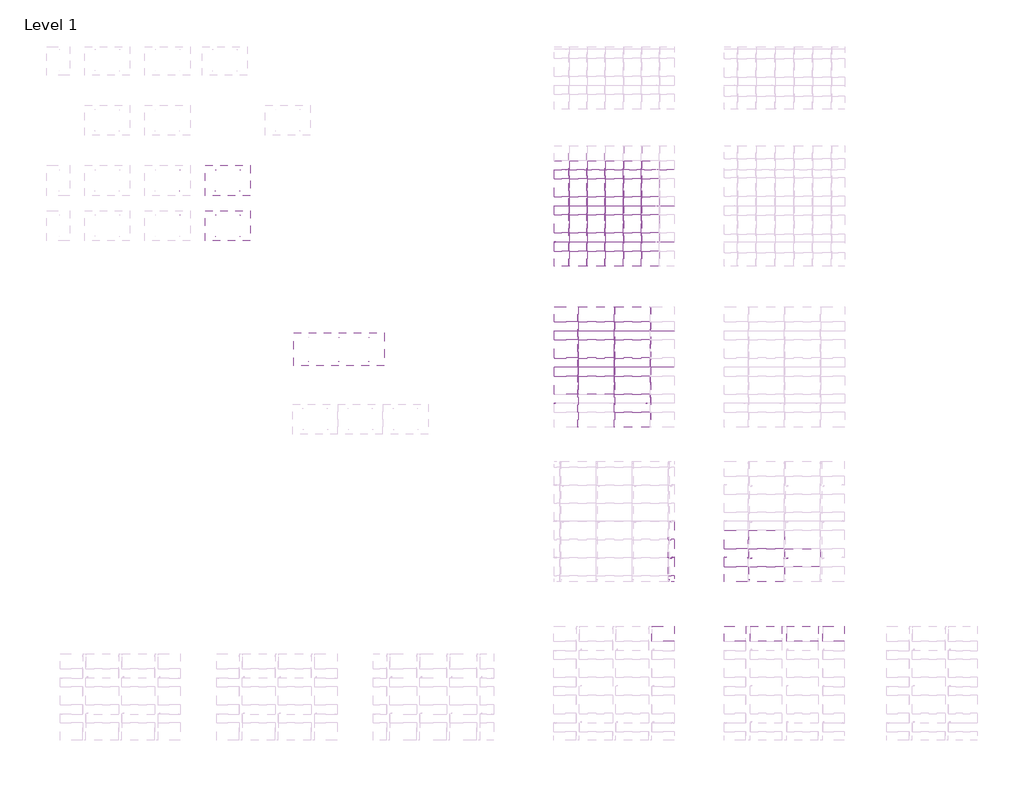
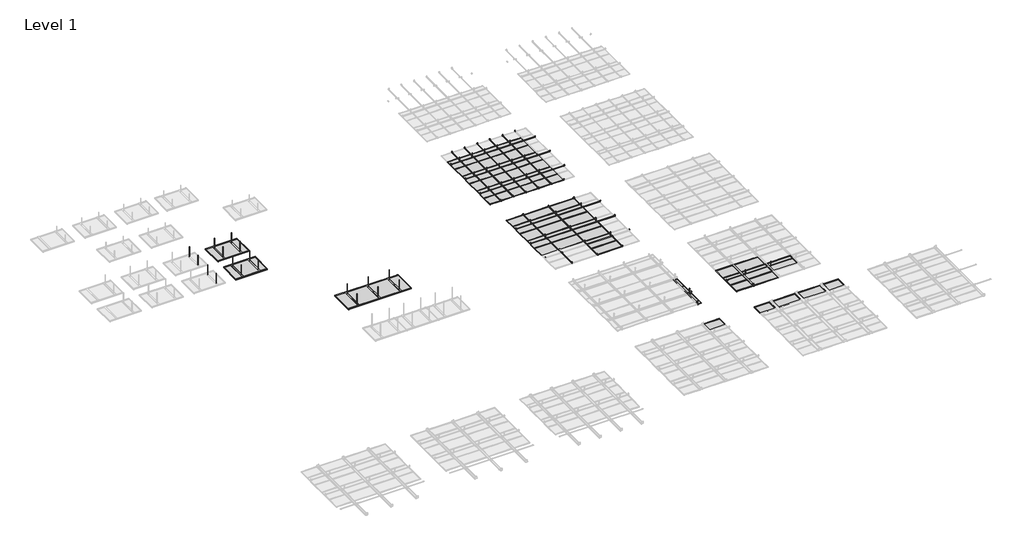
# One storey, part 19 of 32: 136 proxies.
"""IFC4 building model written with IfcOpenShell, lengths in millimetres."""

from ifc_helpers import new_model, si_unit, origin, place, context, project, spatial, transform, mapped, element, save
from components import generic_models_6a3b3989, generic_models_23599627, generic_models_52426d55, generic_models_b4e013a1, generic_models_a68d030a, generic_models_2e6f3e4f, generic_models_30bc5e68, generic_models_0902a4dc, generic_models_f1efeb4e, generic_models_8a91d987, generic_models_d8e51ee8, generic_models_84546a59, generic_models_413290ff, generic_models_9e18e937, generic_models_28f6a95c, generic_models_9ccf16c1, generic_models_38625c8c, generic_models_52b0cff2, generic_models_a15f8cf3, generic_models_f7f565fa, generic_models_7573e460, generic_models_cc1ed79e, generic_models_ab47d6b6, generic_models_cebb11cf, generic_models_ee13603d, generic_models_0cb75665, generic_models_6d21b951, generic_models_ec4af956, generic_models_f9f24abc, generic_models_de900850

model = new_model("IFC4")

# Units and contexts
model_context = context("Model", 3, world=origin())
ifc_project = project(units=[si_unit("LENGTHUNIT", "METRE", prefix="MILLI")], contexts=[model_context])

# Site, building, storey
site = spatial("IfcSite", under=ifc_project)
building = spatial("IfcBuilding", under=site)
storey = spatial("IfcBuildingStorey", under=building, Name="Level 1", Elevation=0.0)

# Proxies
placement = place(None, origin())
generic_models_shape = generic_models_6a3b3989(model_context)
element("IfcBuildingElementProxy", 1, Name="durlum_S4_panel : durlum_S4_panel_wall_length_cut", ObjectType="durlum_S4_panel : durlum_S4_panel_wall_length_cut", at=placement, inside=storey, context=model_context, shape_type="MappedRepresentation", body=[
    mapped(generic_models_shape, transform((-15490.1736977, 3132.0111467, 3700.0), x_axis=(1.0, 0.0, 0.0), y_axis=(0.0, 1.0, 0.0), z_axis=(0.0, 0.0, 1.0))),
])
element("IfcBuildingElementProxy", 2, Name="durlum_S4_panel : durlum_S4_panel_wall_length_cut", ObjectType="durlum_S4_panel : durlum_S4_panel_wall_length_cut", at=placement, inside=storey, context=model_context, shape_type="MappedRepresentation", body=[
    mapped(generic_models_shape, transform((-15490.1736977, 3732.0111467, 3700.0), x_axis=(1.0, 0.0, 0.0), y_axis=(0.0, 1.0, 0.0), z_axis=(0.0, 0.0, 1.0))),
])
element("IfcBuildingElementProxy", 3, Name="durlum_S4_panel : durlum_S4_panel_wall_length_cut", ObjectType="durlum_S4_panel : durlum_S4_panel_wall_length_cut", at=placement, inside=storey, context=model_context, shape_type="MappedRepresentation", body=[
    mapped(generic_models_shape, transform((-15490.1736977, 2532.0111467, 3700.0), x_axis=(1.0, 0.0, 0.0), y_axis=(0.0, 1.0, 0.0), z_axis=(0.0, 0.0, 1.0))),
])
generic_models_2_shape = generic_models_23599627(model_context)
element("IfcBuildingElementProxy", 4, Name="durlum_S4_panel : durlum_S4_panel_wall_corner", ObjectType="durlum_S4_panel : durlum_S4_panel_wall_corner", at=placement, inside=storey, context=model_context, shape_type="MappedRepresentation", body=[
    mapped(generic_models_2_shape, transform((-15490.1736977, 2132.0111467, 3700.0), x_axis=(1.0, 0.0, 0.0), y_axis=(0.0, 1.0, 0.0), z_axis=(0.0, 0.0, 1.0))),
])
generic_models_3_shape = generic_models_52426d55(model_context)
element("IfcBuildingElementProxy", 5, Name="durlum_dur_SOLO_RHOMBOS_TYPE1 : durlum_dur_SOLO_RHOMBOS_TYPE1", ObjectType="durlum_dur_SOLO_RHOMBOS_TYPE1 : durlum_dur_SOLO_RHOMBOS_TYPE1", at=placement, inside=storey, context=model_context, shape_type="MappedRepresentation", body=[
    mapped(generic_models_3_shape, transform((-26532.3984834, 9750.3347409, 3456.9628151), x_axis=(1.0, 0.0, 0.0), y_axis=(0.0, 1.0, 0.0), z_axis=(0.0, 0.0, 1.0))),
])
generic_models_4_shape = generic_models_b4e013a1(model_context)
element("IfcBuildingElementProxy", 6, Name="durlum_S4.7K_panel : durlum_S4.7_panel", ObjectType="durlum_S4.7K_panel : durlum_S4.7_panel", at=placement, inside=storey, context=model_context, shape_type="MappedRepresentation", body=[
    mapped(generic_models_4_shape, transform((-12336.0747393, 2832.0111467, 3700.0), x_axis=(1.0, 0.0, 0.0), y_axis=(0.0, 1.0, 0.0), z_axis=(0.0, 0.0, 1.0))),
])
element("IfcBuildingElementProxy", 7, Name="durlum_S4.7K_panel : durlum_S4.7_panel", ObjectType="durlum_S4.7K_panel : durlum_S4.7_panel", at=placement, inside=storey, context=model_context, shape_type="MappedRepresentation", body=[
    mapped(generic_models_4_shape, transform((-11136.0747393, 2832.0111467, 3700.0), x_axis=(1.0, 0.0, 0.0), y_axis=(0.0, 1.0, 0.0), z_axis=(0.0, 0.0, 1.0))),
])
element("IfcBuildingElementProxy", 8, Name="durlum_S4.7K_panel : durlum_S4.7_panel", ObjectType="durlum_S4.7K_panel : durlum_S4.7_panel", at=placement, inside=storey, context=model_context, shape_type="MappedRepresentation", body=[
    mapped(generic_models_4_shape, transform((-12336.0747393, 3432.0111467, 3700.0), x_axis=(1.0, 0.0, 0.0), y_axis=(0.0, 1.0, 0.0), z_axis=(0.0, 0.0, 1.0))),
])
generic_models_5_shape = generic_models_a68d030a(model_context)
element("IfcBuildingElementProxy", 9, Name="durlum_S4.7K_panel : durlum_S4.7_panel_wall_length_cut", ObjectType="durlum_S4.7K_panel : durlum_S4.7_panel_wall_length_cut", at=placement, inside=storey, context=model_context, shape_type="MappedRepresentation", body=[
    mapped(generic_models_5_shape, transform((-13336.0747393, 3432.0111467, 3700.0), x_axis=(1.0, 0.0, 0.0), y_axis=(0.0, 1.0, 0.0), z_axis=(0.0, 0.0, 1.0))),
])
element("IfcBuildingElementProxy", 10, Name="durlum_S4.7K_panel : durlum_S4.7_panel_wall_length_cut", ObjectType="durlum_S4.7K_panel : durlum_S4.7_panel_wall_length_cut", at=placement, inside=storey, context=model_context, shape_type="MappedRepresentation", body=[
    mapped(generic_models_5_shape, transform((-13336.0747393, 2832.0111467, 3700.0), x_axis=(1.0, 0.0, 0.0), y_axis=(0.0, 1.0, 0.0), z_axis=(0.0, 0.0, 1.0))),
])
generic_models_6_shape = generic_models_2e6f3e4f(model_context)
element("IfcBuildingElementProxy", 11, Name="durlum_S4.7K_panel : durlum_S4.7_panel_wall_width_cut", ObjectType="durlum_S4.7K_panel : durlum_S4.7_panel_wall_width_cut", at=placement, inside=storey, context=model_context, shape_type="MappedRepresentation", body=[
    mapped(generic_models_6_shape, transform((-12336.0747393, 2282.0111467, 3700.0), x_axis=(1.0, 0.0, 0.0), y_axis=(0.0, 1.0, 0.0), z_axis=(0.0, 0.0, 1.0))),
])
generic_models_7_shape = generic_models_30bc5e68(model_context)
element("IfcBuildingElementProxy", 12, Name="durlum_S4.7K_panel : durlum_S4.7_panel_wall_corner", ObjectType="durlum_S4.7K_panel : durlum_S4.7_panel_wall_corner", at=placement, inside=storey, context=model_context, shape_type="MappedRepresentation", body=[
    mapped(generic_models_7_shape, transform((-13336.0747393, 2282.0111467, 3700.0), x_axis=(1.0, 0.0, 0.0), y_axis=(0.0, 1.0, 0.0), z_axis=(0.0, 0.0, 1.0))),
])
generic_models_8_shape = generic_models_0902a4dc(model_context)
element("IfcBuildingElementProxy", 13, Name="durlum_S5-100_panel : durlum_S5-100_panel_wall_corner", ObjectType="durlum_S5-100_panel : durlum_S5-100_panel_wall_corner", at=placement, inside=storey, context=model_context, shape_type="MappedRepresentation", body=[
    mapped(generic_models_8_shape, transform((-15764.9236977, 301.7696119, 3800.0), x_axis=(1.0, 0.0, 0.0), y_axis=(0.0, 1.0, 0.0), z_axis=(0.0, 0.0, 1.0))),
])
generic_models_9_shape = generic_models_f1efeb4e(model_context)
element("IfcBuildingElementProxy", 14, Name="durlum_U1300 : durlum_U1300", ObjectType="durlum_U1300 : durlum_U1300", at=placement, inside=storey, context=model_context, shape_type="MappedRepresentation", body=[
    mapped(generic_models_9_shape, transform((-16284.1736977, 9162.5129347, 3081.9124682), x_axis=(0.0, -1.0, 0.0), y_axis=(1.0, 0.0, 0.0), z_axis=(0.0, 0.0, 1.0))),
])
element("IfcBuildingElementProxy", 15, Name="durlum_U1300 : durlum_U1300", ObjectType="durlum_U1300 : durlum_U1300", at=placement, inside=storey, context=model_context, shape_type="MappedRepresentation", body=[
    mapped(generic_models_9_shape, transform((-18684.1736977, 9162.5129347, 3081.9124682), x_axis=(0.0, -1.0, 0.0), y_axis=(1.0, 0.0, 0.0), z_axis=(0.0, 0.0, 1.0))),
])
element("IfcBuildingElementProxy", 16, Name="durlum_U1300 : durlum_U1300", ObjectType="durlum_U1300 : durlum_U1300", at=placement, inside=storey, context=model_context, shape_type="MappedRepresentation", body=[
    mapped(generic_models_9_shape, transform((-17484.1736977, 9162.5129347, 3081.9124682), x_axis=(0.0, -1.0, 0.0), y_axis=(1.0, 0.0, 0.0), z_axis=(0.0, 0.0, 1.0))),
])
element("IfcBuildingElementProxy", 17, Name="durlum_U1300 : durlum_U1300", ObjectType="durlum_U1300 : durlum_U1300", at=placement, inside=storey, context=model_context, shape_type="MappedRepresentation", body=[
    mapped(generic_models_9_shape, transform((-16284.1736977, 7962.5129347, 3081.9124682), x_axis=(0.0, -1.0, 0.0), y_axis=(1.0, 0.0, 0.0), z_axis=(0.0, 0.0, 1.0))),
])
element("IfcBuildingElementProxy", 18, Name="durlum_U1300 : durlum_U1300", ObjectType="durlum_U1300 : durlum_U1300", at=placement, inside=storey, context=model_context, shape_type="MappedRepresentation", body=[
    mapped(generic_models_9_shape, transform((-16284.1736977, 10362.5129347, 3081.9124682), x_axis=(0.0, -1.0, 0.0), y_axis=(1.0, 0.0, 0.0), z_axis=(0.0, 0.0, 1.0))),
])
element("IfcBuildingElementProxy", 19, Name="durlum_U1300 : durlum_U1300", ObjectType="durlum_U1300 : durlum_U1300", at=placement, inside=storey, context=model_context, shape_type="MappedRepresentation", body=[
    mapped(generic_models_9_shape, transform((-18684.1736977, 10362.5129347, 3081.9124682), x_axis=(0.0, -1.0, 0.0), y_axis=(1.0, 0.0, 0.0), z_axis=(0.0, 0.0, 1.0))),
])
element("IfcBuildingElementProxy", 20, Name="durlum_U1300 : durlum_U1300", ObjectType="durlum_U1300 : durlum_U1300", at=placement, inside=storey, context=model_context, shape_type="MappedRepresentation", body=[
    mapped(generic_models_9_shape, transform((-17484.1736977, 10362.5129347, 3081.9124682), x_axis=(0.0, -1.0, 0.0), y_axis=(1.0, 0.0, 0.0), z_axis=(0.0, 0.0, 1.0))),
])
generic_models_10_shape = generic_models_8a91d987(model_context)
element("IfcBuildingElementProxy", 21, Name="durlum_U1300 : durlum_U1300", ObjectType="durlum_U1300 : durlum_U1300", at=placement, inside=storey, context=model_context, shape_type="MappedRepresentation", body=[
    mapped(generic_models_10_shape, transform((-15490.1736977, 2832.0111467, 3050.4124682), x_axis=(1.0, 0.0, 0.0), y_axis=(0.0, 1.0, 0.0), z_axis=(0.0, 0.0, 1.0))),
])
generic_models_11_shape = generic_models_d8e51ee8(model_context)
element("IfcBuildingElementProxy", 22, Name="durlum_U1300 : durlum_U1300", ObjectType="durlum_U1300 : durlum_U1300", at=placement, inside=storey, context=model_context, shape_type="MappedRepresentation", body=[
    mapped(generic_models_11_shape, transform((-12836.0747393, 2832.0111467, 3056.4124682), x_axis=(1.0, 0.0, 0.0), y_axis=(0.0, 1.0, 0.0), z_axis=(0.0, 0.0, 1.0))),
])
element("IfcBuildingElementProxy", 23, Name="durlum_U1300 : durlum_U1300", ObjectType="durlum_U1300 : durlum_U1300", at=placement, inside=storey, context=model_context, shape_type="MappedRepresentation", body=[
    mapped(generic_models_11_shape, transform((-11636.0747393, 2832.0111467, 3056.4124682), x_axis=(1.0, 0.0, 0.0), y_axis=(0.0, 1.0, 0.0), z_axis=(0.0, 0.0, 1.0))),
])
generic_models_12_shape = generic_models_84546a59(model_context)
element("IfcBuildingElementProxy", 24, Name="durlum_threaded_rod_M6 : durlum_threaded_rod_M6", ObjectType="durlum_threaded_rod_M6 : durlum_threaded_rod_M6", at=placement, inside=storey, context=model_context, shape_type="MappedRepresentation", body=[
    mapped(generic_models_12_shape, transform((-17784.1736977, 15716.936751, 3835.0), x_axis=(1.0, 0.0, 0.0), y_axis=(0.0, 1.0, 0.0), z_axis=(0.0, 0.0, 1.0))),
])
element("IfcBuildingElementProxy", 25, Name="durlum_threaded_rod_M6 : durlum_threaded_rod_M6", ObjectType="durlum_threaded_rod_M6 : durlum_threaded_rod_M6", at=placement, inside=storey, context=model_context, shape_type="MappedRepresentation", body=[
    mapped(generic_models_12_shape, transform((-17784.1736977, 13316.936751, 3835.0), x_axis=(1.0, 0.0, 0.0), y_axis=(0.0, 1.0, 0.0), z_axis=(0.0, 0.0, 1.0))),
])
element("IfcBuildingElementProxy", 26, Name="durlum_threaded_rod_M6 : durlum_threaded_rod_M6", ObjectType="durlum_threaded_rod_M6 : durlum_threaded_rod_M6", at=placement, inside=storey, context=model_context, shape_type="MappedRepresentation", body=[
    mapped(generic_models_12_shape, transform((-18984.1736977, 13316.936751, 3835.0), x_axis=(1.0, 0.0, 0.0), y_axis=(0.0, 1.0, 0.0), z_axis=(0.0, 0.0, 1.0))),
])
element("IfcBuildingElementProxy", 27, Name="durlum_threaded_rod_M6 : durlum_threaded_rod_M6", ObjectType="durlum_threaded_rod_M6 : durlum_threaded_rod_M6", at=placement, inside=storey, context=model_context, shape_type="MappedRepresentation", body=[
    mapped(generic_models_12_shape, transform((-16584.1736977, 13316.936751, 3835.0), x_axis=(1.0, 0.0, 0.0), y_axis=(0.0, 1.0, 0.0), z_axis=(0.0, 0.0, 1.0))),
])
element("IfcBuildingElementProxy", 28, Name="durlum_threaded_rod_M6 : durlum_threaded_rod_M6", ObjectType="durlum_threaded_rod_M6 : durlum_threaded_rod_M6", at=placement, inside=storey, context=model_context, shape_type="MappedRepresentation", body=[
    mapped(generic_models_12_shape, transform((-17184.1736977, 13316.936751, 3835.0), x_axis=(1.0, 0.0, 0.0), y_axis=(0.0, 1.0, 0.0), z_axis=(0.0, 0.0, 1.0))),
])
element("IfcBuildingElementProxy", 29, Name="durlum_threaded_rod_M6 : durlum_threaded_rod_M6", ObjectType="durlum_threaded_rod_M6 : durlum_threaded_rod_M6", at=placement, inside=storey, context=model_context, shape_type="MappedRepresentation", body=[
    mapped(generic_models_12_shape, transform((-18984.1736977, 15716.936751, 3835.0), x_axis=(1.0, 0.0, 0.0), y_axis=(0.0, 1.0, 0.0), z_axis=(0.0, 0.0, 1.0))),
])
element("IfcBuildingElementProxy", 30, Name="durlum_threaded_rod_M6 : durlum_threaded_rod_M6", ObjectType="durlum_threaded_rod_M6 : durlum_threaded_rod_M6", at=placement, inside=storey, context=model_context, shape_type="MappedRepresentation", body=[
    mapped(generic_models_12_shape, transform((-16584.1736977, 15716.936751, 3835.0), x_axis=(1.0, 0.0, 0.0), y_axis=(0.0, 1.0, 0.0), z_axis=(0.0, 0.0, 1.0))),
])
element("IfcBuildingElementProxy", 31, Name="durlum_threaded_rod_M6 : durlum_threaded_rod_M6", ObjectType="durlum_threaded_rod_M6 : durlum_threaded_rod_M6", at=placement, inside=storey, context=model_context, shape_type="MappedRepresentation", body=[
    mapped(generic_models_12_shape, transform((-17184.1736977, 15716.936751, 3835.0), x_axis=(1.0, 0.0, 0.0), y_axis=(0.0, 1.0, 0.0), z_axis=(0.0, 0.0, 1.0))),
])
element("IfcBuildingElementProxy", 32, Name="durlum_threaded_rod_M6 : durlum_threaded_rod_M6", ObjectType="durlum_threaded_rod_M6 : durlum_threaded_rod_M6", at=placement, inside=storey, context=model_context, shape_type="MappedRepresentation", body=[
    mapped(generic_models_12_shape, transform((-18384.1736977, 15716.936751, 3835.0), x_axis=(1.0, 0.0, 0.0), y_axis=(0.0, 1.0, 0.0), z_axis=(0.0, 0.0, 1.0))),
])
element("IfcBuildingElementProxy", 33, Name="durlum_threaded_rod_M6 : durlum_threaded_rod_M6", ObjectType="durlum_threaded_rod_M6 : durlum_threaded_rod_M6", at=placement, inside=storey, context=model_context, shape_type="MappedRepresentation", body=[
    mapped(generic_models_12_shape, transform((-18384.1736977, 13316.936751, 3835.0), x_axis=(1.0, 0.0, 0.0), y_axis=(0.0, 1.0, 0.0), z_axis=(0.0, 0.0, 1.0))),
])
element("IfcBuildingElementProxy", 34, Name="durlum_threaded_rod_M6 : durlum_threaded_rod_M6", ObjectType="durlum_threaded_rod_M6 : durlum_threaded_rod_M6", at=placement, inside=storey, context=model_context, shape_type="MappedRepresentation", body=[
    mapped(generic_models_12_shape, transform((-18384.1736977, 14516.936751, 3835.0), x_axis=(1.0, 0.0, 0.0), y_axis=(0.0, 1.0, 0.0), z_axis=(0.0, 0.0, 1.0))),
])
element("IfcBuildingElementProxy", 35, Name="durlum_threaded_rod_M6 : durlum_threaded_rod_M6", ObjectType="durlum_threaded_rod_M6 : durlum_threaded_rod_M6", at=placement, inside=storey, context=model_context, shape_type="MappedRepresentation", body=[
    mapped(generic_models_12_shape, transform((-17784.1736977, 14516.936751, 3835.0), x_axis=(1.0, 0.0, 0.0), y_axis=(0.0, 1.0, 0.0), z_axis=(0.0, 0.0, 1.0))),
])
element("IfcBuildingElementProxy", 36, Name="durlum_threaded_rod_M6 : durlum_threaded_rod_M6", ObjectType="durlum_threaded_rod_M6 : durlum_threaded_rod_M6", at=placement, inside=storey, context=model_context, shape_type="MappedRepresentation", body=[
    mapped(generic_models_12_shape, transform((-18984.1736977, 14516.936751, 3835.0), x_axis=(1.0, 0.0, 0.0), y_axis=(0.0, 1.0, 0.0), z_axis=(0.0, 0.0, 1.0))),
])
element("IfcBuildingElementProxy", 37, Name="durlum_threaded_rod_M6 : durlum_threaded_rod_M6", ObjectType="durlum_threaded_rod_M6 : durlum_threaded_rod_M6", at=placement, inside=storey, context=model_context, shape_type="MappedRepresentation", body=[
    mapped(generic_models_12_shape, transform((-16584.1736977, 14516.936751, 3835.0), x_axis=(1.0, 0.0, 0.0), y_axis=(0.0, 1.0, 0.0), z_axis=(0.0, 0.0, 1.0))),
])
element("IfcBuildingElementProxy", 38, Name="durlum_threaded_rod_M6 : durlum_threaded_rod_M6", ObjectType="durlum_threaded_rod_M6 : durlum_threaded_rod_M6", at=placement, inside=storey, context=model_context, shape_type="MappedRepresentation", body=[
    mapped(generic_models_12_shape, transform((-17184.1736977, 14516.936751, 3835.0), x_axis=(1.0, 0.0, 0.0), y_axis=(0.0, 1.0, 0.0), z_axis=(0.0, 0.0, 1.0))),
])
generic_models_13_shape = generic_models_413290ff(model_context)
element("IfcBuildingElementProxy", 39, Name="durlum_threaded_rod_M6 : durlum_threaded_rod_M6", ObjectType="durlum_threaded_rod_M6 : durlum_threaded_rod_M6", at=placement, inside=storey, context=model_context, shape_type="MappedRepresentation", body=[
    mapped(generic_models_13_shape, transform((-25532.3984834, 9350.3347409, 3506.9628151), x_axis=(0.0, -1.0, 0.0), y_axis=(1.0, 0.0, 0.0), z_axis=(0.0, 0.0, 1.0))),
])
element("IfcBuildingElementProxy", 40, Name="durlum_threaded_rod_M6 : durlum_threaded_rod_M6", ObjectType="durlum_threaded_rod_M6 : durlum_threaded_rod_M6", at=placement, inside=storey, context=model_context, shape_type="MappedRepresentation", body=[
    mapped(generic_models_13_shape, transform((-25532.3984834, 10150.3347409, 3506.9628151), x_axis=(0.0, -1.0, 0.0), y_axis=(1.0, 0.0, 0.0), z_axis=(0.0, 0.0, 1.0))),
])
element("IfcBuildingElementProxy", 41, Name="durlum_threaded_rod_M6 : durlum_threaded_rod_M6", ObjectType="durlum_threaded_rod_M6 : durlum_threaded_rod_M6", at=placement, inside=storey, context=model_context, shape_type="MappedRepresentation", body=[
    mapped(generic_models_13_shape, transform((-27532.3984834, 9350.3347409, 3506.9628151), x_axis=(0.0, -1.0, 0.0), y_axis=(1.0, 0.0, 0.0), z_axis=(0.0, 0.0, 1.0))),
])
element("IfcBuildingElementProxy", 42, Name="durlum_threaded_rod_M6 : durlum_threaded_rod_M6", ObjectType="durlum_threaded_rod_M6 : durlum_threaded_rod_M6", at=placement, inside=storey, context=model_context, shape_type="MappedRepresentation", body=[
    mapped(generic_models_13_shape, transform((-27532.3984834, 10150.3347409, 3506.9628151), x_axis=(0.0, -1.0, 0.0), y_axis=(1.0, 0.0, 0.0), z_axis=(0.0, 0.0, 1.0))),
])
element("IfcBuildingElementProxy", 43, Name="durlum_threaded_rod_M6 : durlum_threaded_rod_M6", ObjectType="durlum_threaded_rod_M6 : durlum_threaded_rod_M6", at=placement, inside=storey, context=model_context, shape_type="MappedRepresentation", body=[
    mapped(generic_models_13_shape, transform((-26532.3984834, 9350.3347409, 3506.9628151), x_axis=(0.0, -1.0, 0.0), y_axis=(1.0, 0.0, 0.0), z_axis=(0.0, 0.0, 1.0))),
])
element("IfcBuildingElementProxy", 44, Name="durlum_threaded_rod_M6 : durlum_threaded_rod_M6", ObjectType="durlum_threaded_rod_M6 : durlum_threaded_rod_M6", at=placement, inside=storey, context=model_context, shape_type="MappedRepresentation", body=[
    mapped(generic_models_13_shape, transform((-26532.3984834, 10150.3347409, 3506.9628151), x_axis=(0.0, -1.0, 0.0), y_axis=(1.0, 0.0, 0.0), z_axis=(0.0, 0.0, 1.0))),
])
element("IfcBuildingElementProxy", 45, Name="durlum_threaded_rod_M6 : durlum_threaded_rod_M6", ObjectType="durlum_threaded_rod_M6 : durlum_threaded_rod_M6", at=placement, inside=storey, context=model_context, shape_type="MappedRepresentation", body=[
    mapped(generic_models_13_shape, transform((-31821.531136, 15008.7392516, 3506.9628151), x_axis=(0.0, -1.0, 0.0), y_axis=(1.0, 0.0, 0.0), z_axis=(0.0, 0.0, 1.0))),
])
element("IfcBuildingElementProxy", 46, Name="durlum_threaded_rod_M6 : durlum_threaded_rod_M6", ObjectType="durlum_threaded_rod_M6 : durlum_threaded_rod_M6", at=placement, inside=storey, context=model_context, shape_type="MappedRepresentation", body=[
    mapped(generic_models_13_shape, transform((-31821.531136, 15708.7392516, 3506.9628151), x_axis=(0.0, -1.0, 0.0), y_axis=(1.0, 0.0, 0.0), z_axis=(0.0, 0.0, 1.0))),
])
element("IfcBuildingElementProxy", 47, Name="durlum_threaded_rod_M6 : durlum_threaded_rod_M6", ObjectType="durlum_threaded_rod_M6 : durlum_threaded_rod_M6", at=placement, inside=storey, context=model_context, shape_type="MappedRepresentation", body=[
    mapped(generic_models_13_shape, transform((-29821.531136, 15008.7392516, 3506.9628151), x_axis=(0.0, -1.0, 0.0), y_axis=(1.0, 0.0, 0.0), z_axis=(0.0, 0.0, 1.0))),
])
element("IfcBuildingElementProxy", 48, Name="durlum_threaded_rod_M6 : durlum_threaded_rod_M6", ObjectType="durlum_threaded_rod_M6 : durlum_threaded_rod_M6", at=placement, inside=storey, context=model_context, shape_type="MappedRepresentation", body=[
    mapped(generic_models_13_shape, transform((-29821.531136, 15708.7392516, 3506.9628151), x_axis=(0.0, -1.0, 0.0), y_axis=(1.0, 0.0, 0.0), z_axis=(0.0, 0.0, 1.0))),
])
element("IfcBuildingElementProxy", 49, Name="durlum_threaded_rod_M6 : durlum_threaded_rod_M6", ObjectType="durlum_threaded_rod_M6 : durlum_threaded_rod_M6", at=placement, inside=storey, context=model_context, shape_type="MappedRepresentation", body=[
    mapped(generic_models_13_shape, transform((-30631.531136, 15008.7392516, 3506.9628151), x_axis=(0.0, -1.0, 0.0), y_axis=(1.0, 0.0, 0.0), z_axis=(0.0, 0.0, 1.0))),
])
element("IfcBuildingElementProxy", 50, Name="durlum_threaded_rod_M6 : durlum_threaded_rod_M6", ObjectType="durlum_threaded_rod_M6 : durlum_threaded_rod_M6", at=placement, inside=storey, context=model_context, shape_type="MappedRepresentation", body=[
    mapped(generic_models_13_shape, transform((-30631.531136, 15708.7392516, 3506.9628151), x_axis=(0.0, -1.0, 0.0), y_axis=(1.0, 0.0, 0.0), z_axis=(0.0, 0.0, 1.0))),
])
element("IfcBuildingElementProxy", 51, Name="durlum_threaded_rod_M6 : durlum_threaded_rod_M6", ObjectType="durlum_threaded_rod_M6 : durlum_threaded_rod_M6", at=placement, inside=storey, context=model_context, shape_type="MappedRepresentation", body=[
    mapped(generic_models_13_shape, transform((-31821.531136, 13508.7392516, 3506.9628151), x_axis=(0.0, -1.0, 0.0), y_axis=(1.0, 0.0, 0.0), z_axis=(0.0, 0.0, 1.0))),
])
element("IfcBuildingElementProxy", 52, Name="durlum_threaded_rod_M6 : durlum_threaded_rod_M6", ObjectType="durlum_threaded_rod_M6 : durlum_threaded_rod_M6", at=placement, inside=storey, context=model_context, shape_type="MappedRepresentation", body=[
    mapped(generic_models_13_shape, transform((-31821.531136, 14208.7392516, 3506.9628151), x_axis=(0.0, -1.0, 0.0), y_axis=(1.0, 0.0, 0.0), z_axis=(0.0, 0.0, 1.0))),
])
element("IfcBuildingElementProxy", 53, Name="durlum_threaded_rod_M6 : durlum_threaded_rod_M6", ObjectType="durlum_threaded_rod_M6 : durlum_threaded_rod_M6", at=placement, inside=storey, context=model_context, shape_type="MappedRepresentation", body=[
    mapped(generic_models_13_shape, transform((-29821.531136, 13508.7392516, 3506.9628151), x_axis=(0.0, -1.0, 0.0), y_axis=(1.0, 0.0, 0.0), z_axis=(0.0, 0.0, 1.0))),
])
element("IfcBuildingElementProxy", 54, Name="durlum_threaded_rod_M6 : durlum_threaded_rod_M6", ObjectType="durlum_threaded_rod_M6 : durlum_threaded_rod_M6", at=placement, inside=storey, context=model_context, shape_type="MappedRepresentation", body=[
    mapped(generic_models_13_shape, transform((-29821.531136, 14208.7392516, 3506.9628151), x_axis=(0.0, -1.0, 0.0), y_axis=(1.0, 0.0, 0.0), z_axis=(0.0, 0.0, 1.0))),
])
element("IfcBuildingElementProxy", 55, Name="durlum_threaded_rod_M6 : durlum_threaded_rod_M6", ObjectType="durlum_threaded_rod_M6 : durlum_threaded_rod_M6", at=placement, inside=storey, context=model_context, shape_type="MappedRepresentation", body=[
    mapped(generic_models_13_shape, transform((-30631.531136, 13508.7392516, 3506.9628151), x_axis=(0.0, -1.0, 0.0), y_axis=(1.0, 0.0, 0.0), z_axis=(0.0, 0.0, 1.0))),
])
element("IfcBuildingElementProxy", 56, Name="durlum_threaded_rod_M6 : durlum_threaded_rod_M6", ObjectType="durlum_threaded_rod_M6 : durlum_threaded_rod_M6", at=placement, inside=storey, context=model_context, shape_type="MappedRepresentation", body=[
    mapped(generic_models_13_shape, transform((-30631.531136, 14208.7392516, 3506.9628151), x_axis=(0.0, -1.0, 0.0), y_axis=(1.0, 0.0, 0.0), z_axis=(0.0, 0.0, 1.0))),
])
generic_models_14_shape = generic_models_9e18e937(model_context)
element("IfcBuildingElementProxy", 57, Name="durlum_U1042 : durlum_U1042", ObjectType="durlum_U1042 : durlum_U1042", at=placement, inside=storey, context=model_context, shape_type="MappedRepresentation", body=[
    mapped(generic_models_14_shape, transform((-15390.1736977, 2846.0111467, 3770.0), x_axis=(0.0, -1.0, 0.0), y_axis=(1.0, 0.0, 0.0), z_axis=(0.0, 0.0, 1.0))),
])
element("IfcBuildingElementProxy", 58, Name="durlum_U1042 : durlum_U1042", ObjectType="durlum_U1042 : durlum_U1042", at=placement, inside=storey, context=model_context, shape_type="MappedRepresentation", body=[
    mapped(generic_models_14_shape, transform((-15571.7736977, 2032.0111467, 3772.0), x_axis=(-1.0, 0.0, 0.0), y_axis=(0.0, -1.0, 0.0), z_axis=(0.0, 0.0, 1.0))),
])
generic_models_15_shape = generic_models_28f6a95c(model_context)
element("IfcBuildingElementProxy", 59, Name="durlum_U1042 : durlum_U1042", ObjectType="durlum_U1042 : durlum_U1042", at=placement, inside=storey, context=model_context, shape_type="MappedRepresentation", body=[
    mapped(generic_models_15_shape, transform((-13736.0747393, 2846.0111467, 3776.0), x_axis=(0.0, -1.0, 0.0), y_axis=(1.0, 0.0, 0.0), z_axis=(0.0, 0.0, 1.0))),
])
element("IfcBuildingElementProxy", 60, Name="durlum_U1042 : durlum_U1042", ObjectType="durlum_U1042 : durlum_U1042", at=placement, inside=storey, context=model_context, shape_type="MappedRepresentation", body=[
    mapped(generic_models_14_shape, transform((-12917.6747393, 2032.0111467, 3778.0), x_axis=(-1.0, 0.0, 0.0), y_axis=(0.0, -1.0, 0.0), z_axis=(0.0, 0.0, 1.0))),
])
generic_models_16_shape = generic_models_9ccf16c1(model_context)
element("IfcBuildingElementProxy", 61, Name="durlum_U1044 : durlum_U1044", ObjectType="durlum_U1044 : durlum_U1044", at=placement, inside=storey, context=model_context, shape_type="MappedRepresentation", body=[
    mapped(generic_models_16_shape, transform((-15570.1736977, 2830.5111467, 3762.0), x_axis=(-1.0, 0.0, 0.0), y_axis=(0.0, -1.0, 0.0), z_axis=(0.0, 0.0, 1.0))),
])
element("IfcBuildingElementProxy", 62, Name="durlum_U1044 : durlum_U1044", ObjectType="durlum_U1044 : durlum_U1044", at=placement, inside=storey, context=model_context, shape_type="MappedRepresentation", body=[
    mapped(generic_models_16_shape, transform((-12916.0747393, 2830.5111467, 3768.0), x_axis=(-1.0, 0.0, 0.0), y_axis=(0.0, -1.0, 0.0), z_axis=(0.0, 0.0, 1.0))),
])
generic_models_17_shape = generic_models_38625c8c(model_context)
element("IfcBuildingElementProxy", 63, Name="durlum_U1000 : durlum_U1000", ObjectType="durlum_U1000 : durlum_U1000", at=placement, inside=storey, context=model_context, shape_type="MappedRepresentation", body=[
    mapped(generic_models_17_shape, transform((-17384.1736977, 9162.5129347, 3760.4163794), x_axis=(1.0, 0.0, 0.0), y_axis=(0.0, 1.0, 0.0), z_axis=(0.0, 0.0, 1.0))),
])
element("IfcBuildingElementProxy", 64, Name="durlum_U1000 : durlum_U1000", ObjectType="durlum_U1000 : durlum_U1000", at=placement, inside=storey, context=model_context, shape_type="MappedRepresentation", body=[
    mapped(generic_models_17_shape, transform((-17384.1736977, 10362.5129347, 3760.4163794), x_axis=(1.0, 0.0, 0.0), y_axis=(0.0, 1.0, 0.0), z_axis=(0.0, 0.0, 1.0))),
])
element("IfcBuildingElementProxy", 65, Name="durlum_U1000 : durlum_U1000", ObjectType="durlum_U1000 : durlum_U1000", at=placement, inside=storey, context=model_context, shape_type="MappedRepresentation", body=[
    mapped(generic_models_17_shape, transform((-17384.1736977, 9162.5129347, 3720.3202962), x_axis=(0.0, 1.0, 0.0), y_axis=(-1.0, 0.0, 0.0), z_axis=(0.0, 0.0, 1.0))),
])
element("IfcBuildingElementProxy", 66, Name="durlum_U1000 : durlum_U1000", ObjectType="durlum_U1000 : durlum_U1000", at=placement, inside=storey, context=model_context, shape_type="MappedRepresentation", body=[
    mapped(generic_models_17_shape, transform((-18584.1736977, 9162.5129347, 3720.3202962), x_axis=(0.0, 1.0, 0.0), y_axis=(-1.0, 0.0, 0.0), z_axis=(0.0, 0.0, 1.0))),
])
element("IfcBuildingElementProxy", 67, Name="durlum_U1000 : durlum_U1000", ObjectType="durlum_U1000 : durlum_U1000", at=placement, inside=storey, context=model_context, shape_type="MappedRepresentation", body=[
    mapped(generic_models_17_shape, transform((-16184.1736977, 9162.5129347, 3720.3202962), x_axis=(0.0, 1.0, 0.0), y_axis=(-1.0, 0.0, 0.0), z_axis=(0.0, 0.0, 1.0))),
])
element("IfcBuildingElementProxy", 68, Name="durlum_U1000 : durlum_U1000", ObjectType="durlum_U1000 : durlum_U1000", at=placement, inside=storey, context=model_context, shape_type="MappedRepresentation", body=[
    mapped(generic_models_17_shape, transform((-17684.1736977, 14516.936751, 3712.8202962), x_axis=(0.0, 1.0, 0.0), y_axis=(-1.0, 0.0, 0.0), z_axis=(0.0, 0.0, 1.0))),
])
element("IfcBuildingElementProxy", 69, Name="durlum_U1000 : durlum_U1000", ObjectType="durlum_U1000 : durlum_U1000", at=placement, inside=storey, context=model_context, shape_type="MappedRepresentation", body=[
    mapped(generic_models_17_shape, transform((-17384.1736977, 13316.936751, 3754.5054063), x_axis=(1.0, 0.0, 0.0), y_axis=(0.0, 1.0, 0.0), z_axis=(0.0, 0.0, 1.0))),
])
element("IfcBuildingElementProxy", 70, Name="durlum_U1000 : durlum_U1000", ObjectType="durlum_U1000 : durlum_U1000", at=placement, inside=storey, context=model_context, shape_type="MappedRepresentation", body=[
    mapped(generic_models_17_shape, transform((-17384.1736977, 15716.936751, 3754.5054063), x_axis=(1.0, 0.0, 0.0), y_axis=(0.0, 1.0, 0.0), z_axis=(0.0, 0.0, 1.0))),
])
element("IfcBuildingElementProxy", 71, Name="durlum_U1000 : durlum_U1000", ObjectType="durlum_U1000 : durlum_U1000", at=placement, inside=storey, context=model_context, shape_type="MappedRepresentation", body=[
    mapped(generic_models_17_shape, transform((-17084.1736977, 14516.936751, 3712.8202962), x_axis=(0.0, 1.0, 0.0), y_axis=(-1.0, 0.0, 0.0), z_axis=(0.0, 0.0, 1.0))),
])
element("IfcBuildingElementProxy", 72, Name="durlum_U1000 : durlum_U1000", ObjectType="durlum_U1000 : durlum_U1000", at=placement, inside=storey, context=model_context, shape_type="MappedRepresentation", body=[
    mapped(generic_models_17_shape, transform((-16484.1736977, 14516.936751, 3712.8202962), x_axis=(0.0, 1.0, 0.0), y_axis=(-1.0, 0.0, 0.0), z_axis=(0.0, 0.0, 1.0))),
])
element("IfcBuildingElementProxy", 73, Name="durlum_U1000 : durlum_U1000", ObjectType="durlum_U1000 : durlum_U1000", at=placement, inside=storey, context=model_context, shape_type="MappedRepresentation", body=[
    mapped(generic_models_17_shape, transform((-18884.1736977, 14516.936751, 3712.8202962), x_axis=(0.0, 1.0, 0.0), y_axis=(-1.0, 0.0, 0.0), z_axis=(0.0, 0.0, 1.0))),
])
element("IfcBuildingElementProxy", 74, Name="durlum_U1000 : durlum_U1000", ObjectType="durlum_U1000 : durlum_U1000", at=placement, inside=storey, context=model_context, shape_type="MappedRepresentation", body=[
    mapped(generic_models_17_shape, transform((-17384.1736977, 14516.936751, 3754.5054063), x_axis=(1.0, 0.0, 0.0), y_axis=(0.0, 1.0, 0.0), z_axis=(0.0, 0.0, 1.0))),
])
element("IfcBuildingElementProxy", 75, Name="durlum_U1000 : durlum_U1000", ObjectType="durlum_U1000 : durlum_U1000", at=placement, inside=storey, context=model_context, shape_type="MappedRepresentation", body=[
    mapped(generic_models_17_shape, transform((-18284.1736977, 14516.936751, 3712.8202962), x_axis=(0.0, 1.0, 0.0), y_axis=(-1.0, 0.0, 0.0), z_axis=(0.0, 0.0, 1.0))),
])
generic_models_18_shape = generic_models_52b0cff2(model_context)
element("IfcBuildingElementProxy", 76, Name="durlum_S1.12_panel : durlum_S1.12_panel_wall_width_cut", ObjectType="durlum_S1.12_panel : durlum_S1.12_panel_wall_width_cut", at=placement, inside=storey, context=model_context, shape_type="MappedRepresentation", body=[
    mapped(generic_models_18_shape, transform((-16784.1736977, 7412.5129347, 3700.0), x_axis=(1.0, 0.0, 0.0), y_axis=(0.0, 1.0, 0.0), z_axis=(0.0, 0.0, 1.0))),
])
element("IfcBuildingElementProxy", 77, Name="durlum_S1.12_panel : durlum_S1.12_panel_wall_width_cut", ObjectType="durlum_S1.12_panel : durlum_S1.12_panel_wall_width_cut", at=placement, inside=storey, context=model_context, shape_type="MappedRepresentation", body=[
    mapped(generic_models_18_shape, transform((-16784.1736977, 10912.5129347, 3700.0), x_axis=(1.0, 0.0, 0.0), y_axis=(0.0, 1.0, 0.0), z_axis=(0.0, 0.0, 1.0))),
])
element("IfcBuildingElementProxy", 78, Name="durlum_S1.12_panel : durlum_S1.12_panel_wall_width_cut", ObjectType="durlum_S1.12_panel : durlum_S1.12_panel_wall_width_cut", at=placement, inside=storey, context=model_context, shape_type="MappedRepresentation", body=[
    mapped(generic_models_18_shape, transform((-17984.1736977, 10912.5129347, 3700.0), x_axis=(1.0, 0.0, 0.0), y_axis=(0.0, 1.0, 0.0), z_axis=(0.0, 0.0, 1.0))),
])
generic_models_19_shape = generic_models_a15f8cf3(model_context)
element("IfcBuildingElementProxy", 79, Name="durlum_S1.12_panel : durlum_S1.12_panel", ObjectType="durlum_S1.12_panel : durlum_S1.12_panel", at=placement, inside=storey, context=model_context, shape_type="MappedRepresentation", body=[
    mapped(generic_models_19_shape, transform((-17984.1736977, 8562.5129347, 3700.0), x_axis=(1.0, 0.0, 0.0), y_axis=(0.0, 1.0, 0.0), z_axis=(0.0, 0.0, 1.0))),
])
element("IfcBuildingElementProxy", 80, Name="durlum_S1.12_panel : durlum_S1.12_panel", ObjectType="durlum_S1.12_panel : durlum_S1.12_panel", at=placement, inside=storey, context=model_context, shape_type="MappedRepresentation", body=[
    mapped(generic_models_19_shape, transform((-16784.1736977, 8562.5129347, 3700.0), x_axis=(1.0, 0.0, 0.0), y_axis=(0.0, 1.0, 0.0), z_axis=(0.0, 0.0, 1.0))),
])
element("IfcBuildingElementProxy", 81, Name="durlum_S1.12_panel : durlum_S1.12_panel", ObjectType="durlum_S1.12_panel : durlum_S1.12_panel", at=placement, inside=storey, context=model_context, shape_type="MappedRepresentation", body=[
    mapped(generic_models_19_shape, transform((-17984.1736977, 9162.5129347, 3700.0), x_axis=(1.0, 0.0, 0.0), y_axis=(0.0, 1.0, 0.0), z_axis=(0.0, 0.0, 1.0))),
])
element("IfcBuildingElementProxy", 82, Name="durlum_S1.12_panel : durlum_S1.12_panel", ObjectType="durlum_S1.12_panel : durlum_S1.12_panel", at=placement, inside=storey, context=model_context, shape_type="MappedRepresentation", body=[
    mapped(generic_models_19_shape, transform((-16784.1736977, 9162.5129347, 3700.0), x_axis=(1.0, 0.0, 0.0), y_axis=(0.0, 1.0, 0.0), z_axis=(0.0, 0.0, 1.0))),
])
element("IfcBuildingElementProxy", 83, Name="durlum_S1.12_panel : durlum_S1.12_panel", ObjectType="durlum_S1.12_panel : durlum_S1.12_panel", at=placement, inside=storey, context=model_context, shape_type="MappedRepresentation", body=[
    mapped(generic_models_19_shape, transform((-17984.1736977, 9762.5129347, 3700.0), x_axis=(1.0, 0.0, 0.0), y_axis=(0.0, 1.0, 0.0), z_axis=(0.0, 0.0, 1.0))),
])
element("IfcBuildingElementProxy", 84, Name="durlum_S1.12_panel : durlum_S1.12_panel", ObjectType="durlum_S1.12_panel : durlum_S1.12_panel", at=placement, inside=storey, context=model_context, shape_type="MappedRepresentation", body=[
    mapped(generic_models_19_shape, transform((-16784.1736977, 9762.5129347, 3700.0), x_axis=(1.0, 0.0, 0.0), y_axis=(0.0, 1.0, 0.0), z_axis=(0.0, 0.0, 1.0))),
])
element("IfcBuildingElementProxy", 85, Name="durlum_S1.12_panel : durlum_S1.12_panel", ObjectType="durlum_S1.12_panel : durlum_S1.12_panel", at=placement, inside=storey, context=model_context, shape_type="MappedRepresentation", body=[
    mapped(generic_models_19_shape, transform((-16784.1736977, 7962.5129347, 3700.0), x_axis=(1.0, 0.0, 0.0), y_axis=(0.0, 1.0, 0.0), z_axis=(0.0, 0.0, 1.0))),
])
element("IfcBuildingElementProxy", 86, Name="durlum_S1.12_panel : durlum_S1.12_panel", ObjectType="durlum_S1.12_panel : durlum_S1.12_panel", at=placement, inside=storey, context=model_context, shape_type="MappedRepresentation", body=[
    mapped(generic_models_19_shape, transform((-17984.1736977, 10362.5129347, 3700.0), x_axis=(1.0, 0.0, 0.0), y_axis=(0.0, 1.0, 0.0), z_axis=(0.0, 0.0, 1.0))),
])
element("IfcBuildingElementProxy", 87, Name="durlum_S1.12_panel : durlum_S1.12_panel", ObjectType="durlum_S1.12_panel : durlum_S1.12_panel", at=placement, inside=storey, context=model_context, shape_type="MappedRepresentation", body=[
    mapped(generic_models_19_shape, transform((-16784.1736977, 10362.5129347, 3700.0), x_axis=(1.0, 0.0, 0.0), y_axis=(0.0, 1.0, 0.0), z_axis=(0.0, 0.0, 1.0))),
])
generic_models_20_shape = generic_models_f7f565fa(model_context)
element("IfcBuildingElementProxy", 88, Name="durlum_S5-100_panel : durlum_S5-100_panel_wall_width_cut", ObjectType="durlum_S5-100_panel : durlum_S5-100_panel_wall_width_cut", at=placement, inside=storey, context=model_context, shape_type="MappedRepresentation", body=[
    mapped(generic_models_20_shape, transform((-11136.0747393, 301.7696119, 3800.0), x_axis=(1.0, 0.0, 0.0), y_axis=(0.0, 1.0, 0.0), z_axis=(0.0, 0.0, 1.0))),
])
element("IfcBuildingElementProxy", 89, Name="durlum_S5-100_panel : durlum_S5-100_panel_wall_width_cut", ObjectType="durlum_S5-100_panel : durlum_S5-100_panel_wall_width_cut", at=placement, inside=storey, context=model_context, shape_type="MappedRepresentation", body=[
    mapped(generic_models_20_shape, transform((-12336.0747393, 301.7696119, 3800.0), x_axis=(1.0, 0.0, 0.0), y_axis=(0.0, 1.0, 0.0), z_axis=(0.0, 0.0, 1.0))),
])
generic_models_21_shape = generic_models_7573e460(model_context)
element("IfcBuildingElementProxy", 90, Name="durlum_S1.12_panel : durlum_S1.12_panel_wall_length_cut", ObjectType="durlum_S1.12_panel : durlum_S1.12_panel_wall_length_cut", at=placement, inside=storey, context=model_context, shape_type="MappedRepresentation", body=[
    mapped(generic_models_21_shape, transform((-18984.1736977, 8562.5129347, 3700.0), x_axis=(1.0, 0.0, 0.0), y_axis=(0.0, 1.0, 0.0), z_axis=(0.0, 0.0, 1.0))),
])
element("IfcBuildingElementProxy", 91, Name="durlum_S1.12_panel : durlum_S1.12_panel_wall_length_cut", ObjectType="durlum_S1.12_panel : durlum_S1.12_panel_wall_length_cut", at=placement, inside=storey, context=model_context, shape_type="MappedRepresentation", body=[
    mapped(generic_models_21_shape, transform((-18984.1736977, 9162.5129347, 3700.0), x_axis=(1.0, 0.0, 0.0), y_axis=(0.0, 1.0, 0.0), z_axis=(0.0, 0.0, 1.0))),
])
element("IfcBuildingElementProxy", 92, Name="durlum_S1.12_panel : durlum_S1.12_panel_wall_length_cut", ObjectType="durlum_S1.12_panel : durlum_S1.12_panel_wall_length_cut", at=placement, inside=storey, context=model_context, shape_type="MappedRepresentation", body=[
    mapped(generic_models_21_shape, transform((-18984.1736977, 9762.5129347, 3700.0), x_axis=(1.0, 0.0, 0.0), y_axis=(0.0, 1.0, 0.0), z_axis=(0.0, 0.0, 1.0))),
])
element("IfcBuildingElementProxy", 93, Name="durlum_S1.12_panel : durlum_S1.12_panel_wall_length_cut", ObjectType="durlum_S1.12_panel : durlum_S1.12_panel_wall_length_cut", at=placement, inside=storey, context=model_context, shape_type="MappedRepresentation", body=[
    mapped(generic_models_21_shape, transform((-18984.1736977, 10362.5129347, 3700.0), x_axis=(1.0, 0.0, 0.0), y_axis=(0.0, 1.0, 0.0), z_axis=(0.0, 0.0, 1.0))),
])
generic_models_22_shape = generic_models_cc1ed79e(model_context)
element("IfcBuildingElementProxy", 94, Name="durlum_S1.12_panel : durlum_S1.12_panel_wall_corner", ObjectType="durlum_S1.12_panel : durlum_S1.12_panel_wall_corner", at=placement, inside=storey, context=model_context, shape_type="MappedRepresentation", body=[
    mapped(generic_models_22_shape, transform((-18984.1736977, 10912.5129347, 3700.0), x_axis=(1.0, 0.0, 0.0), y_axis=(0.0, 1.0, 0.0), z_axis=(0.0, 0.0, 1.0))),
])
generic_models_23_shape = generic_models_ab47d6b6(model_context)
element("IfcBuildingElementProxy", 95, Name="durlum_S5-100_panel : durlum_S5-100_panel_wall_corner", ObjectType="durlum_S5-100_panel : durlum_S5-100_panel_wall_corner", at=placement, inside=storey, context=model_context, shape_type="MappedRepresentation", body=[
    mapped(generic_models_23_shape, transform((-10098.3247393, 301.7696119, 3800.0), x_axis=(1.0, 0.0, 0.0), y_axis=(0.0, 1.0, 0.0), z_axis=(0.0, 0.0, 1.0))),
])
element("IfcBuildingElementProxy", 96, Name="durlum_S5-100_panel : durlum_S5-100_panel_wall_corner", ObjectType="durlum_S5-100_panel : durlum_S5-100_panel_wall_corner", at=placement, inside=storey, context=model_context, shape_type="MappedRepresentation", body=[
    mapped(generic_models_23_shape, transform((-13373.8247393, 301.7696119, 3800.0), x_axis=(1.0, 0.0, 0.0), y_axis=(0.0, 1.0, 0.0), z_axis=(0.0, 0.0, 1.0))),
])
generic_models_24_shape = generic_models_cebb11cf(model_context)
element("IfcBuildingElementProxy", 97, Name="durlum_S1_panel : durlum_S1_panel", ObjectType="durlum_S1_panel : durlum_S1_panel", at=placement, inside=storey, context=model_context, shape_type="MappedRepresentation", body=[
    mapped(generic_models_24_shape, transform((-17384.1736977, 14516.936751, 3700.0), x_axis=(1.0, 0.0, 0.0), y_axis=(0.0, 1.0, 0.0), z_axis=(0.0, 0.0, 1.0))),
])
element("IfcBuildingElementProxy", 98, Name="durlum_S1_panel : durlum_S1_panel", ObjectType="durlum_S1_panel : durlum_S1_panel", at=placement, inside=storey, context=model_context, shape_type="MappedRepresentation", body=[
    mapped(generic_models_24_shape, transform((-17984.1736977, 14516.936751, 3700.0), x_axis=(1.0, 0.0, 0.0), y_axis=(0.0, 1.0, 0.0), z_axis=(0.0, 0.0, 1.0))),
])
element("IfcBuildingElementProxy", 99, Name="durlum_S1_panel : durlum_S1_panel", ObjectType="durlum_S1_panel : durlum_S1_panel", at=placement, inside=storey, context=model_context, shape_type="MappedRepresentation", body=[
    mapped(generic_models_24_shape, transform((-18584.1736977, 14516.936751, 3700.0), x_axis=(1.0, 0.0, 0.0), y_axis=(0.0, 1.0, 0.0), z_axis=(0.0, 0.0, 1.0))),
])
element("IfcBuildingElementProxy", 100, Name="durlum_S1_panel : durlum_S1_panel", ObjectType="durlum_S1_panel : durlum_S1_panel", at=placement, inside=storey, context=model_context, shape_type="MappedRepresentation", body=[
    mapped(generic_models_24_shape, transform((-16184.1736977, 14516.936751, 3700.0), x_axis=(1.0, 0.0, 0.0), y_axis=(0.0, 1.0, 0.0), z_axis=(0.0, 0.0, 1.0))),
])
element("IfcBuildingElementProxy", 101, Name="durlum_S1_panel : durlum_S1_panel", ObjectType="durlum_S1_panel : durlum_S1_panel", at=placement, inside=storey, context=model_context, shape_type="MappedRepresentation", body=[
    mapped(generic_models_24_shape, transform((-17384.1736977, 13316.936751, 3700.0), x_axis=(1.0, 0.0, 0.0), y_axis=(0.0, 1.0, 0.0), z_axis=(0.0, 0.0, 1.0))),
])
element("IfcBuildingElementProxy", 102, Name="durlum_S1_panel : durlum_S1_panel", ObjectType="durlum_S1_panel : durlum_S1_panel", at=placement, inside=storey, context=model_context, shape_type="MappedRepresentation", body=[
    mapped(generic_models_24_shape, transform((-17384.1736977, 15716.936751, 3700.0), x_axis=(1.0, 0.0, 0.0), y_axis=(0.0, 1.0, 0.0), z_axis=(0.0, 0.0, 1.0))),
])
element("IfcBuildingElementProxy", 103, Name="durlum_S1_panel : durlum_S1_panel", ObjectType="durlum_S1_panel : durlum_S1_panel", at=placement, inside=storey, context=model_context, shape_type="MappedRepresentation", body=[
    mapped(generic_models_24_shape, transform((-17384.1736977, 15116.936751, 3700.0), x_axis=(1.0, 0.0, 0.0), y_axis=(0.0, 1.0, 0.0), z_axis=(0.0, 0.0, 1.0))),
])
element("IfcBuildingElementProxy", 104, Name="durlum_S1_panel : durlum_S1_panel", ObjectType="durlum_S1_panel : durlum_S1_panel", at=placement, inside=storey, context=model_context, shape_type="MappedRepresentation", body=[
    mapped(generic_models_24_shape, transform((-17984.1736977, 15116.936751, 3700.0), x_axis=(1.0, 0.0, 0.0), y_axis=(0.0, 1.0, 0.0), z_axis=(0.0, 0.0, 1.0))),
])
element("IfcBuildingElementProxy", 105, Name="durlum_S1_panel : durlum_S1_panel", ObjectType="durlum_S1_panel : durlum_S1_panel", at=placement, inside=storey, context=model_context, shape_type="MappedRepresentation", body=[
    mapped(generic_models_24_shape, transform((-17984.1736977, 13316.936751, 3700.0), x_axis=(1.0, 0.0, 0.0), y_axis=(0.0, 1.0, 0.0), z_axis=(0.0, 0.0, 1.0))),
])
element("IfcBuildingElementProxy", 106, Name="durlum_S1_panel : durlum_S1_panel", ObjectType="durlum_S1_panel : durlum_S1_panel", at=placement, inside=storey, context=model_context, shape_type="MappedRepresentation", body=[
    mapped(generic_models_24_shape, transform((-17984.1736977, 15716.936751, 3700.0), x_axis=(1.0, 0.0, 0.0), y_axis=(0.0, 1.0, 0.0), z_axis=(0.0, 0.0, 1.0))),
])
element("IfcBuildingElementProxy", 107, Name="durlum_S1_panel : durlum_S1_panel", ObjectType="durlum_S1_panel : durlum_S1_panel", at=placement, inside=storey, context=model_context, shape_type="MappedRepresentation", body=[
    mapped(generic_models_24_shape, transform((-18584.1736977, 15116.936751, 3700.0), x_axis=(1.0, 0.0, 0.0), y_axis=(0.0, 1.0, 0.0), z_axis=(0.0, 0.0, 1.0))),
])
element("IfcBuildingElementProxy", 108, Name="durlum_S1_panel : durlum_S1_panel", ObjectType="durlum_S1_panel : durlum_S1_panel", at=placement, inside=storey, context=model_context, shape_type="MappedRepresentation", body=[
    mapped(generic_models_24_shape, transform((-16184.1736977, 15116.936751, 3700.0), x_axis=(1.0, 0.0, 0.0), y_axis=(0.0, 1.0, 0.0), z_axis=(0.0, 0.0, 1.0))),
])
element("IfcBuildingElementProxy", 109, Name="durlum_S1_panel : durlum_S1_panel", ObjectType="durlum_S1_panel : durlum_S1_panel", at=placement, inside=storey, context=model_context, shape_type="MappedRepresentation", body=[
    mapped(generic_models_24_shape, transform((-18584.1736977, 13316.936751, 3700.0), x_axis=(1.0, 0.0, 0.0), y_axis=(0.0, 1.0, 0.0), z_axis=(0.0, 0.0, 1.0))),
])
element("IfcBuildingElementProxy", 110, Name="durlum_S1_panel : durlum_S1_panel", ObjectType="durlum_S1_panel : durlum_S1_panel", at=placement, inside=storey, context=model_context, shape_type="MappedRepresentation", body=[
    mapped(generic_models_24_shape, transform((-16184.1736977, 13316.936751, 3700.0), x_axis=(1.0, 0.0, 0.0), y_axis=(0.0, 1.0, 0.0), z_axis=(0.0, 0.0, 1.0))),
])
element("IfcBuildingElementProxy", 111, Name="durlum_S1_panel : durlum_S1_panel", ObjectType="durlum_S1_panel : durlum_S1_panel", at=placement, inside=storey, context=model_context, shape_type="MappedRepresentation", body=[
    mapped(generic_models_24_shape, transform((-18584.1736977, 15716.936751, 3700.0), x_axis=(1.0, 0.0, 0.0), y_axis=(0.0, 1.0, 0.0), z_axis=(0.0, 0.0, 1.0))),
])
element("IfcBuildingElementProxy", 112, Name="durlum_S1_panel : durlum_S1_panel", ObjectType="durlum_S1_panel : durlum_S1_panel", at=placement, inside=storey, context=model_context, shape_type="MappedRepresentation", body=[
    mapped(generic_models_24_shape, transform((-16184.1736977, 15716.936751, 3700.0), x_axis=(1.0, 0.0, 0.0), y_axis=(0.0, 1.0, 0.0), z_axis=(0.0, 0.0, 1.0))),
])
element("IfcBuildingElementProxy", 113, Name="durlum_S1_panel : durlum_S1_panel", ObjectType="durlum_S1_panel : durlum_S1_panel", at=placement, inside=storey, context=model_context, shape_type="MappedRepresentation", body=[
    mapped(generic_models_24_shape, transform((-16784.1736977, 15116.936751, 3700.0), x_axis=(1.0, 0.0, 0.0), y_axis=(0.0, 1.0, 0.0), z_axis=(0.0, 0.0, 1.0))),
])
element("IfcBuildingElementProxy", 114, Name="durlum_S1_panel : durlum_S1_panel", ObjectType="durlum_S1_panel : durlum_S1_panel", at=placement, inside=storey, context=model_context, shape_type="MappedRepresentation", body=[
    mapped(generic_models_24_shape, transform((-16784.1736977, 13316.936751, 3700.0), x_axis=(1.0, 0.0, 0.0), y_axis=(0.0, 1.0, 0.0), z_axis=(0.0, 0.0, 1.0))),
])
element("IfcBuildingElementProxy", 115, Name="durlum_S1_panel : durlum_S1_panel", ObjectType="durlum_S1_panel : durlum_S1_panel", at=placement, inside=storey, context=model_context, shape_type="MappedRepresentation", body=[
    mapped(generic_models_24_shape, transform((-16784.1736977, 15716.936751, 3700.0), x_axis=(1.0, 0.0, 0.0), y_axis=(0.0, 1.0, 0.0), z_axis=(0.0, 0.0, 1.0))),
])
element("IfcBuildingElementProxy", 116, Name="durlum_S1_panel : durlum_S1_panel", ObjectType="durlum_S1_panel : durlum_S1_panel", at=placement, inside=storey, context=model_context, shape_type="MappedRepresentation", body=[
    mapped(generic_models_24_shape, transform((-16784.1736977, 14516.936751, 3700.0), x_axis=(1.0, 0.0, 0.0), y_axis=(0.0, 1.0, 0.0), z_axis=(0.0, 0.0, 1.0))),
])
element("IfcBuildingElementProxy", 117, Name="durlum_S1_panel : durlum_S1_panel", ObjectType="durlum_S1_panel : durlum_S1_panel", at=placement, inside=storey, context=model_context, shape_type="MappedRepresentation", body=[
    mapped(generic_models_24_shape, transform((-16784.1736977, 13916.936751, 3700.0), x_axis=(1.0, 0.0, 0.0), y_axis=(0.0, 1.0, 0.0), z_axis=(0.0, 0.0, 1.0))),
])
element("IfcBuildingElementProxy", 118, Name="durlum_S1_panel : durlum_S1_panel", ObjectType="durlum_S1_panel : durlum_S1_panel", at=placement, inside=storey, context=model_context, shape_type="MappedRepresentation", body=[
    mapped(generic_models_24_shape, transform((-17384.1736977, 13916.936751, 3700.0), x_axis=(1.0, 0.0, 0.0), y_axis=(0.0, 1.0, 0.0), z_axis=(0.0, 0.0, 1.0))),
])
element("IfcBuildingElementProxy", 119, Name="durlum_S1_panel : durlum_S1_panel", ObjectType="durlum_S1_panel : durlum_S1_panel", at=placement, inside=storey, context=model_context, shape_type="MappedRepresentation", body=[
    mapped(generic_models_24_shape, transform((-17984.1736977, 13916.936751, 3700.0), x_axis=(1.0, 0.0, 0.0), y_axis=(0.0, 1.0, 0.0), z_axis=(0.0, 0.0, 1.0))),
])
element("IfcBuildingElementProxy", 120, Name="durlum_S1_panel : durlum_S1_panel", ObjectType="durlum_S1_panel : durlum_S1_panel", at=placement, inside=storey, context=model_context, shape_type="MappedRepresentation", body=[
    mapped(generic_models_24_shape, transform((-18584.1736977, 13916.936751, 3700.0), x_axis=(1.0, 0.0, 0.0), y_axis=(0.0, 1.0, 0.0), z_axis=(0.0, 0.0, 1.0))),
])
element("IfcBuildingElementProxy", 121, Name="durlum_S1_panel : durlum_S1_panel", ObjectType="durlum_S1_panel : durlum_S1_panel", at=placement, inside=storey, context=model_context, shape_type="MappedRepresentation", body=[
    mapped(generic_models_24_shape, transform((-16184.1736977, 13916.936751, 3700.0), x_axis=(1.0, 0.0, 0.0), y_axis=(0.0, 1.0, 0.0), z_axis=(0.0, 0.0, 1.0))),
])
generic_models_25_shape = generic_models_ee13603d(model_context)
element("IfcBuildingElementProxy", 122, Name="durlum_S1_panel : durlum_S1_panel_wall_length_cut", ObjectType="durlum_S1_panel : durlum_S1_panel_wall_length_cut", at=placement, inside=storey, context=model_context, shape_type="MappedRepresentation", body=[
    mapped(generic_models_25_shape, transform((-19134.1736977, 14516.936751, 3700.0), x_axis=(1.0, 0.0, 0.0), y_axis=(0.0, 1.0, 0.0), z_axis=(0.0, 0.0, 1.0))),
])
element("IfcBuildingElementProxy", 123, Name="durlum_S1_panel : durlum_S1_panel_wall_length_cut", ObjectType="durlum_S1_panel : durlum_S1_panel_wall_length_cut", at=placement, inside=storey, context=model_context, shape_type="MappedRepresentation", body=[
    mapped(generic_models_25_shape, transform((-19134.1736977, 15116.936751, 3700.0), x_axis=(1.0, 0.0, 0.0), y_axis=(0.0, 1.0, 0.0), z_axis=(0.0, 0.0, 1.0))),
])
element("IfcBuildingElementProxy", 124, Name="durlum_S1_panel : durlum_S1_panel_wall_length_cut", ObjectType="durlum_S1_panel : durlum_S1_panel_wall_length_cut", at=placement, inside=storey, context=model_context, shape_type="MappedRepresentation", body=[
    mapped(generic_models_25_shape, transform((-19134.1736977, 13316.936751, 3700.0), x_axis=(1.0, 0.0, 0.0), y_axis=(0.0, 1.0, 0.0), z_axis=(0.0, 0.0, 1.0))),
])
element("IfcBuildingElementProxy", 125, Name="durlum_S1_panel : durlum_S1_panel_wall_length_cut", ObjectType="durlum_S1_panel : durlum_S1_panel_wall_length_cut", at=placement, inside=storey, context=model_context, shape_type="MappedRepresentation", body=[
    mapped(generic_models_25_shape, transform((-19134.1736977, 15716.936751, 3700.0), x_axis=(1.0, 0.0, 0.0), y_axis=(0.0, 1.0, 0.0), z_axis=(0.0, 0.0, 1.0))),
])
element("IfcBuildingElementProxy", 126, Name="durlum_S1_panel : durlum_S1_panel_wall_length_cut", ObjectType="durlum_S1_panel : durlum_S1_panel_wall_length_cut", at=placement, inside=storey, context=model_context, shape_type="MappedRepresentation", body=[
    mapped(generic_models_25_shape, transform((-19134.1736977, 13916.936751, 3700.0), x_axis=(1.0, 0.0, 0.0), y_axis=(0.0, 1.0, 0.0), z_axis=(0.0, 0.0, 1.0))),
])
generic_models_26_shape = generic_models_0cb75665(model_context)
element("IfcBuildingElementProxy", 127, Name="durlum_S1_panel : durlum_S1_panel_wall_width_cut", ObjectType="durlum_S1_panel : durlum_S1_panel_wall_width_cut", at=placement, inside=storey, context=model_context, shape_type="MappedRepresentation", body=[
    mapped(generic_models_26_shape, transform((-17384.1736977, 12766.936751, 3700.0), x_axis=(1.0, 0.0, 0.0), y_axis=(0.0, 1.0, 0.0), z_axis=(0.0, 0.0, 1.0))),
])
element("IfcBuildingElementProxy", 128, Name="durlum_S1_panel : durlum_S1_panel_wall_width_cut", ObjectType="durlum_S1_panel : durlum_S1_panel_wall_width_cut", at=placement, inside=storey, context=model_context, shape_type="MappedRepresentation", body=[
    mapped(generic_models_26_shape, transform((-17984.1736977, 12766.936751, 3700.0), x_axis=(1.0, 0.0, 0.0), y_axis=(0.0, 1.0, 0.0), z_axis=(0.0, 0.0, 1.0))),
])
element("IfcBuildingElementProxy", 129, Name="durlum_S1_panel : durlum_S1_panel_wall_width_cut", ObjectType="durlum_S1_panel : durlum_S1_panel_wall_width_cut", at=placement, inside=storey, context=model_context, shape_type="MappedRepresentation", body=[
    mapped(generic_models_26_shape, transform((-16184.1736977, 12766.936751, 3700.0), x_axis=(1.0, 0.0, 0.0), y_axis=(0.0, 1.0, 0.0), z_axis=(0.0, 0.0, 1.0))),
])
element("IfcBuildingElementProxy", 130, Name="durlum_S1_panel : durlum_S1_panel_wall_width_cut", ObjectType="durlum_S1_panel : durlum_S1_panel_wall_width_cut", at=placement, inside=storey, context=model_context, shape_type="MappedRepresentation", body=[
    mapped(generic_models_26_shape, transform((-18584.1736977, 12766.936751, 3700.0), x_axis=(1.0, 0.0, 0.0), y_axis=(0.0, 1.0, 0.0), z_axis=(0.0, 0.0, 1.0))),
])
element("IfcBuildingElementProxy", 131, Name="durlum_S1_panel : durlum_S1_panel_wall_width_cut", ObjectType="durlum_S1_panel : durlum_S1_panel_wall_width_cut", at=placement, inside=storey, context=model_context, shape_type="MappedRepresentation", body=[
    mapped(generic_models_26_shape, transform((-16784.1736977, 12766.936751, 3700.0), x_axis=(1.0, 0.0, 0.0), y_axis=(0.0, 1.0, 0.0), z_axis=(0.0, 0.0, 1.0))),
])
generic_models_27_shape = generic_models_6d21b951(model_context)
element("IfcBuildingElementProxy", 132, Name="durlum_S1_panel : durlum_S1_panel_wall_corner", ObjectType="durlum_S1_panel : durlum_S1_panel_wall_corner", at=placement, inside=storey, context=model_context, shape_type="MappedRepresentation", body=[
    mapped(generic_models_27_shape, transform((-19134.1736977, 12766.936751, 3700.0), x_axis=(1.0, 0.0, 0.0), y_axis=(0.0, 1.0, 0.0), z_axis=(0.0, 0.0, 1.0))),
])
generic_models_28_shape = generic_models_ec4af956(model_context)
element("IfcBuildingElementProxy", 133, Name="durlum_S1.12 : durlum_S1.12", ObjectType="durlum_S1.12 : durlum_S1.12", at=placement, inside=storey, context=model_context, shape_type="MappedRepresentation", body=[
    mapped(generic_models_28_shape, transform((-17384.1736977, 9162.5129347, -1605.1851536), x_axis=(1.0, 0.0, 0.0), y_axis=(0.0, 1.0, 0.0), z_axis=(0.0, 0.0, 1.0))),
])
generic_models_29_shape = generic_models_f9f24abc(model_context)
element("IfcBuildingElementProxy", 134, Name="durlum_dur_SOLO_RHOMBOS_TYPE1 : durlum_dur_SOLO_RHOMBOS_TYPE1", ObjectType="durlum_dur_SOLO_RHOMBOS_TYPE1 : durlum_dur_SOLO_RHOMBOS_TYPE1", at=placement, inside=storey, context=model_context, shape_type="MappedRepresentation", body=[
    mapped(generic_models_29_shape, transform((-30226.531136, 15358.7392516, 3456.9628151), x_axis=(1.0, 0.0, 0.0), y_axis=(0.0, 1.0, 0.0), z_axis=(0.0, 0.0, 1.0))),
])
element("IfcBuildingElementProxy", 135, Name="durlum_dur_SOLO_RHOMBOS_TYPE1 : durlum_dur_SOLO_RHOMBOS_TYPE1", ObjectType="durlum_dur_SOLO_RHOMBOS_TYPE1 : durlum_dur_SOLO_RHOMBOS_TYPE1", at=placement, inside=storey, context=model_context, shape_type="MappedRepresentation", body=[
    mapped(generic_models_29_shape, transform((-30226.531136, 13858.7392516, 3456.9628151), x_axis=(1.0, 0.0, 0.0), y_axis=(0.0, 1.0, 0.0), z_axis=(0.0, 0.0, 1.0))),
])
generic_models_30_shape = generic_models_de900850(model_context)
element("IfcBuildingElementProxy", 136, Name="durlum_S1SDK : 600 x 600", ObjectType="durlum_S1SDK : 600 x 600", at=placement, inside=storey, context=model_context, shape_type="MappedRepresentation", body=[
    mapped(generic_models_30_shape, transform((-17384.1736977, 14516.936751, 1700.0), x_axis=(1.0, 0.0, 0.0), y_axis=(0.0, 1.0, 0.0), z_axis=(0.0, 0.0, 1.0))),
])

save(model, "model.ifc")
